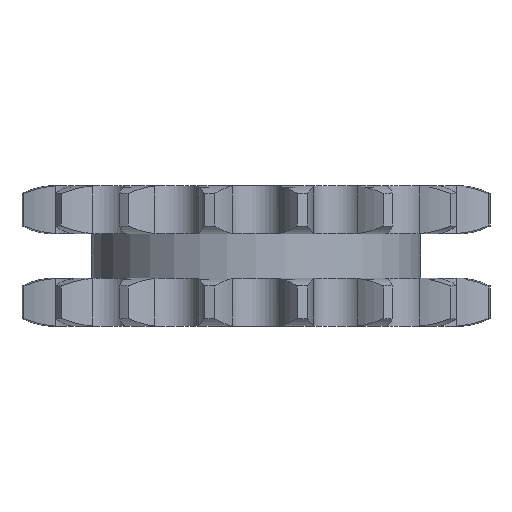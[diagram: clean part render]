
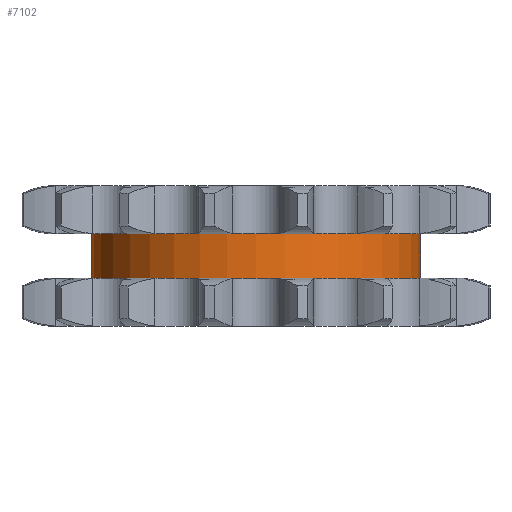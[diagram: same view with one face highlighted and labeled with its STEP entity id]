
A CAD part, left-side view. The second image highlights one B-rep face of the part: STEP entity #7102.
In plain terms, the highlighted cylindrical face has radius 24.549 mm (diameter 49.098 mm), a partial arc.
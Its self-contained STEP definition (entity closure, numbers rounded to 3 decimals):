
#1068=DIRECTION('',(0.,0.,-1.));
#1069=VECTOR('',#1068,6.6);
#1070=CARTESIAN_POINT('',(0.,24.549,3.3));
#1071=LINE('',#1070,#1069);
#1075=CARTESIAN_POINT('',(0.,0.,3.3));
#1076=DIRECTION('',(0.,0.,1.));
#1077=DIRECTION('',(0.,1.,0.));
#1078=AXIS2_PLACEMENT_3D('',#1075,#1076,#1077);
#1083=DIRECTION('',(0.,0.,-1.));
#1084=VECTOR('',#1083,6.6);
#1085=CARTESIAN_POINT('',(0.,-24.549,3.3));
#1086=LINE('',#1085,#1084);
#1090=CARTESIAN_POINT('',(0.,0.,-3.3));
#1091=DIRECTION('',(0.,0.,1.));
#1092=DIRECTION('',(0.,1.,0.));
#1093=AXIS2_PLACEMENT_3D('',#1090,#1091,#1092);
#5627=CARTESIAN_POINT('',(0.,24.549,3.3));
#5628=CARTESIAN_POINT('',(0.,24.549,-3.3));
#5629=VERTEX_POINT('',#5627);
#5630=VERTEX_POINT('',#5628);
#5631=CARTESIAN_POINT('',(0.,-24.549,3.3));
#5632=CARTESIAN_POINT('',(0.,-24.549,-3.3));
#5633=VERTEX_POINT('',#5631);
#5634=VERTEX_POINT('',#5632);
#7090=CARTESIAN_POINT('',(0.,0.,3.63));
#7091=DIRECTION('',(0.,0.,-1.));
#7092=DIRECTION('',(0.,-1.,0.));
#7093=AXIS2_PLACEMENT_3D('',#7090,#7091,#7092);
#7094=CYLINDRICAL_SURFACE('',#7093,24.549);
#7095=ORIENTED_EDGE('',*,*,#7080,.F.);
#7096=ORIENTED_EDGE('',*,*,#7070,.T.);
#7097=ORIENTED_EDGE('',*,*,#7084,.T.);
#7099=ORIENTED_EDGE('',*,*,#7098,.F.);
#7100=EDGE_LOOP('',(#7095,#7096,#7097,#7099));
#7101=FACE_OUTER_BOUND('',#7100,.F.);
#7102=ADVANCED_FACE('',(#7101),#7094,.T.);
#1079=CIRCLE('',#1078,24.549);
#1094=CIRCLE('',#1093,24.549);
#7070=EDGE_CURVE('',#5629,#5633,#1079,.T.);
#7080=EDGE_CURVE('',#5629,#5630,#1071,.T.);
#7084=EDGE_CURVE('',#5633,#5634,#1086,.T.);
#7098=EDGE_CURVE('',#5630,#5634,#1094,.T.);
